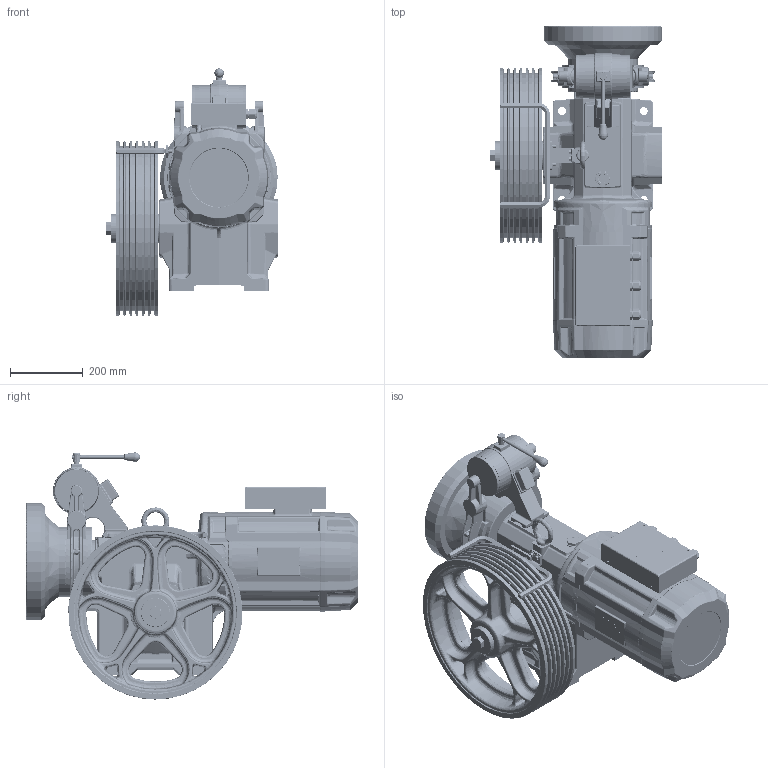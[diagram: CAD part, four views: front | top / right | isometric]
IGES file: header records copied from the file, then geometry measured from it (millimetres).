
Start section: START RECORD GO HERE.
Global section: file name: gearbox BL265.igs; native system: DASSAULT SYSTEMES CATIA Version 5-6 Release 2017 - www.3ds.com; preprocessor: V5-6R2017_5.27.2.0.03-10-2017.22.00; author: j_siahi; organization: BEHRANLIFT; date: 20230619.150418; units: millimetre
Bounding box: 475.67 x 914 x 680.73 mm (x, y, z)
Surface area: 2702974.8 mm2 (no closed solid volume)
Topology: 0 solids, 0 shells, 6220 faces, 32352 edges, 32048 vertices
Faces by surface type: revolution 2279, plane 1973, bspline 1928, extrusion 40
